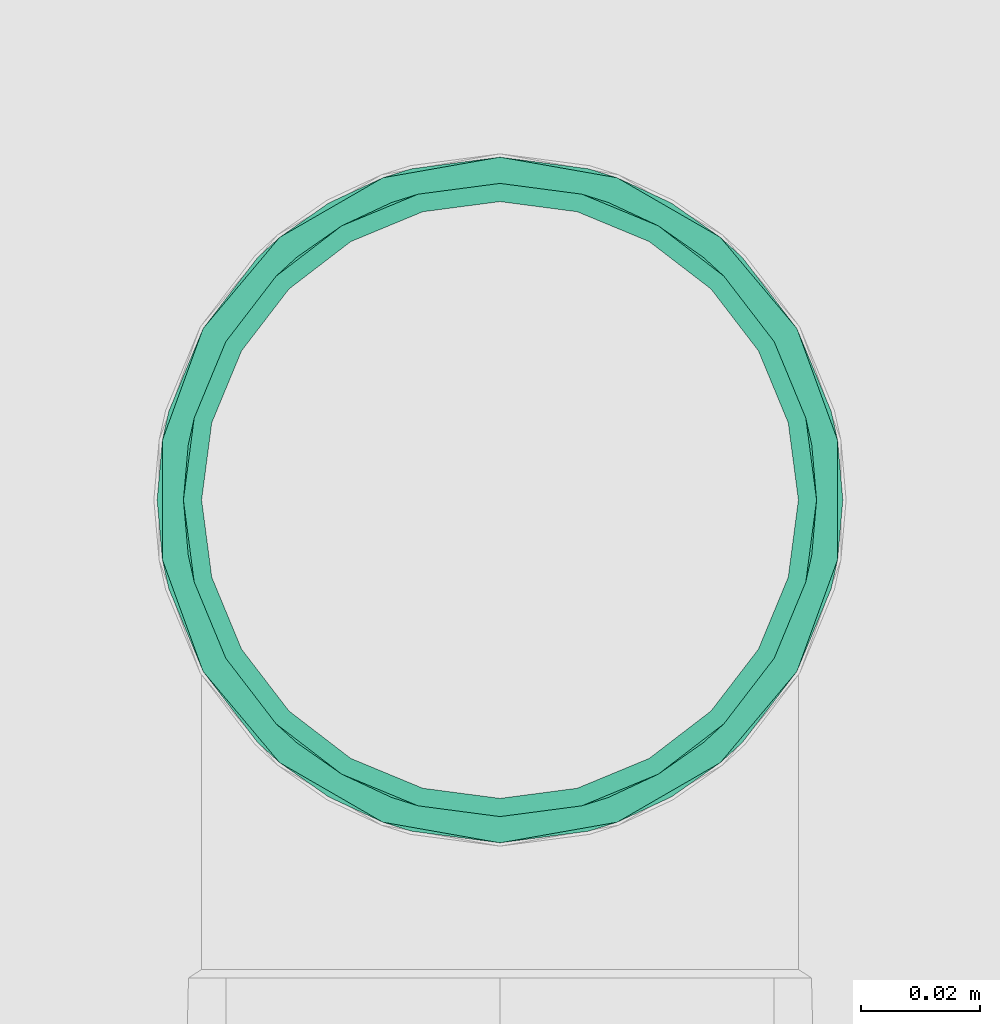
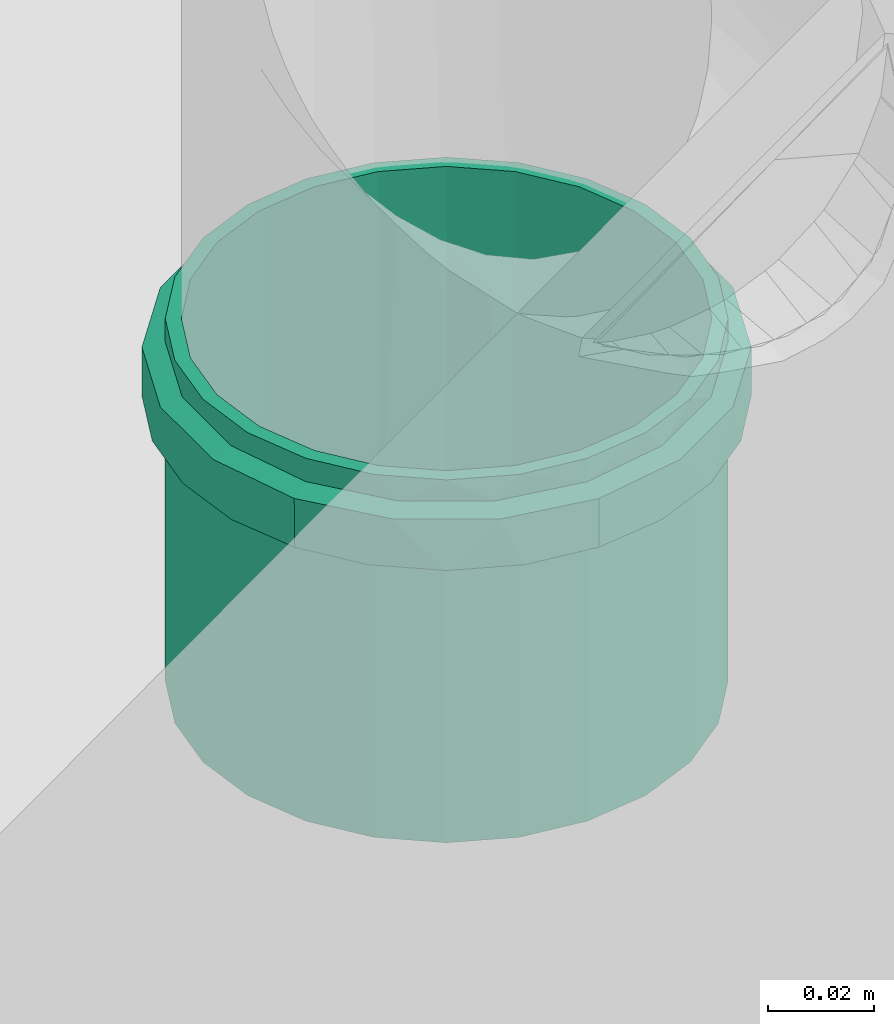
# One storey, part 236 of 589: 1 flow fitting.
"""IFC2X3 building model written with IfcOpenShell, lengths in millimetres."""

from ifc_helpers import new_model, entity, si_unit, converted_unit, derived_unit, direction, frame, origin, place, context, subcontext, project, spatial, faceted_brep, source, transform, mapped, material, type_object, type_shapes, element, save


model = new_model("IFC2X3")

# Units and contexts
model_context = context("Model", 3, precision=0.01, world=origin(), true_north=direction((6.123031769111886e-17, 1.0)))
body_context = subcontext(model_context, "Body", "Model", "MODEL_VIEW")
ifc_project = project(units=[si_unit("LENGTHUNIT", "METRE", prefix="MILLI"), si_unit("AREAUNIT", "SQUARE_METRE"), si_unit("VOLUMEUNIT", "CUBIC_METRE"), converted_unit("PLANEANGLEUNIT", "DEGREE", entity("IfcRatioMeasure", 0.017453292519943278), si_unit("PLANEANGLEUNIT", "RADIAN"), dimensions=[0, 0, 0, 0, 0, 0, 0]), si_unit("MASSUNIT", "GRAM", prefix="KILO"), derived_unit("MASSDENSITYUNIT", [(si_unit("MASSUNIT", "GRAM", prefix="KILO"), 1), (si_unit("LENGTHUNIT", "METRE"), -3)]), derived_unit("IONCONCENTRATIONUNIT", [(si_unit("MASSUNIT", "GRAM", prefix="KILO"), 1), (si_unit("LENGTHUNIT", "METRE"), -3)]), derived_unit("MOMENTOFINERTIAUNIT", [(si_unit("LENGTHUNIT", "METRE"), 4)]), si_unit("TIMEUNIT", "SECOND"), si_unit("FREQUENCYUNIT", "HERTZ"), si_unit("THERMODYNAMICTEMPERATUREUNIT", "DEGREE_CELSIUS"), derived_unit("THERMALTRANSMITTANCEUNIT", [(si_unit("MASSUNIT", "GRAM", prefix="KILO"), 1), (si_unit("THERMODYNAMICTEMPERATUREUNIT", "KELVIN"), -1), (si_unit("TIMEUNIT", "SECOND"), -3)]), derived_unit("THERMALCONDUCTANCEUNIT", [(si_unit("MASSUNIT", "GRAM", prefix="KILO"), 1), (si_unit("THERMODYNAMICTEMPERATUREUNIT", "KELVIN"), -1), (si_unit("TIMEUNIT", "SECOND"), -3), (si_unit("LENGTHUNIT", "METRE"), 1)]), derived_unit("VOLUMETRICFLOWRATEUNIT", [(si_unit("LENGTHUNIT", "METRE"), 3), (si_unit("TIMEUNIT", "SECOND"), -1)]), derived_unit("MASSFLOWRATEUNIT", [(si_unit("MASSUNIT", "GRAM", prefix="KILO"), 1), (si_unit("TIMEUNIT", "SECOND"), -1)]), derived_unit("ROTATIONALFREQUENCYUNIT", [(si_unit("TIMEUNIT", "SECOND"), -1)]), si_unit("ELECTRICCURRENTUNIT", "AMPERE"), si_unit("ELECTRICVOLTAGEUNIT", "VOLT"), si_unit("POWERUNIT", "WATT"), si_unit("FORCEUNIT", "NEWTON", prefix="KILO"), si_unit("ILLUMINANCEUNIT", "LUX"), si_unit("LUMINOUSFLUXUNIT", "LUMEN"), si_unit("LUMINOUSINTENSITYUNIT", "CANDELA"), derived_unit("USERDEFINED", [(si_unit("MASSUNIT", "GRAM", prefix="KILO"), -1), (si_unit("LENGTHUNIT", "METRE"), -2), (si_unit("TIMEUNIT", "SECOND"), 3), (si_unit("LUMINOUSFLUXUNIT", "LUMEN"), 1)]), derived_unit("USERDEFINED", [(si_unit("MASSUNIT", "GRAM", prefix="KILO"), 1), (si_unit("TIMEUNIT", "SECOND"), -3), (si_unit("LENGTHUNIT", "METRE"), 3), (si_unit("ELECTRICCURRENTUNIT", "AMPERE"), -2)]), derived_unit("SOUNDPOWERUNIT", [(si_unit("MASSUNIT", "GRAM", prefix="KILO"), 1), (si_unit("TIMEUNIT", "SECOND"), -3), (si_unit("LENGTHUNIT", "METRE"), 2)]), derived_unit("SOUNDPRESSUREUNIT", [(si_unit("MASSUNIT", "GRAM", prefix="KILO"), 1), (si_unit("LENGTHUNIT", "METRE"), -1), (si_unit("TIMEUNIT", "SECOND"), -2)]), derived_unit("LINEARVELOCITYUNIT", [(si_unit("LENGTHUNIT", "METRE"), 1), (si_unit("TIMEUNIT", "SECOND"), -1)]), si_unit("PRESSUREUNIT", "PASCAL"), derived_unit("USERDEFINED", [(si_unit("MASSUNIT", "GRAM", prefix="KILO"), 1), (si_unit("LENGTHUNIT", "METRE"), -2), (si_unit("TIMEUNIT", "SECOND"), -2)]), derived_unit("LINEARFORCEUNIT", [(si_unit("MASSUNIT", "GRAM", prefix="KILO"), 1), (si_unit("TIMEUNIT", "SECOND"), -2)]), derived_unit("PLANARFORCEUNIT", [(si_unit("MASSUNIT", "GRAM", prefix="KILO"), 1), (si_unit("LENGTHUNIT", "METRE"), -1), (si_unit("TIMEUNIT", "SECOND"), -2)]), derived_unit("SPECIFICHEATCAPACITYUNIT", [(si_unit("THERMODYNAMICTEMPERATUREUNIT", "KELVIN"), -1), (si_unit("LENGTHUNIT", "METRE"), 2), (si_unit("TIMEUNIT", "SECOND"), -2)]), derived_unit("HEATINGVALUEUNIT", [(si_unit("LENGTHUNIT", "METRE"), 2), (si_unit("TIMEUNIT", "SECOND"), -2)]), derived_unit("VAPORPERMEABILITYUNIT", [(si_unit("LENGTHUNIT", "METRE"), -1), (si_unit("TIMEUNIT", "SECOND"), 1)]), derived_unit("DYNAMICVISCOSITYUNIT", [(si_unit("MASSUNIT", "GRAM", prefix="KILO"), 1), (si_unit("TIMEUNIT", "SECOND"), -1), (si_unit("LENGTHUNIT", "METRE"), -1)]), derived_unit("THERMALEXPANSIONCOEFFICIENTUNIT", [(si_unit("THERMODYNAMICTEMPERATUREUNIT", "KELVIN"), -1)]), derived_unit("MODULUSOFELASTICITYUNIT", [(si_unit("MASSUNIT", "GRAM", prefix="KILO"), 1), (si_unit("LENGTHUNIT", "METRE"), -1), (si_unit("TIMEUNIT", "SECOND"), -2)]), derived_unit("ISOTHERMALMOISTURECAPACITYUNIT", [(si_unit("LENGTHUNIT", "METRE"), 3), (si_unit("MASSUNIT", "GRAM", prefix="KILO"), -1)]), derived_unit("MOISTUREDIFFUSIVITYUNIT", [(si_unit("TIMEUNIT", "SECOND"), -1), (si_unit("LENGTHUNIT", "METRE"), 2)])], contexts=[model_context])

# Site, building, storey
site_placement = place(None, origin())
site = spatial("IfcSite", under=ifc_project, at=site_placement, Name="Default", CompositionType="ELEMENT")
building_placement = place(site_placement, origin())
building = spatial("IfcBuilding", under=site, at=building_placement, CompositionType="ELEMENT")
storey_placement = place(building_placement, frame((0.0, 0.0, 100.0)))
storey = spatial("IfcBuildingStorey", under=building, at=storey_placement, Name="TÉRREO", CompositionType="ELEMENT", Elevation=100.0)

# Flow fitting
ifc_material = material(Name="PVC Série Normal")
pipe_fitting_type = type_object("IfcPipeFittingType", Name="PVC Esgoto_Luva Simples para Conexão_Rodrigo MEP:Standard", PredefinedType="NOTDEFINED", material=ifc_material)
shared_shape = source(origin(), body_context, "Body", "Brep", [
    faceted_brep([(17.770000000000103, 28.72500000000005, -49.753159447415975), (17.770000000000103, 40.62328457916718, -40.62328457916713), (17.770000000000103, 26.524999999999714, -45.94264767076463), (17.770000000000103, 13.730350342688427, -51.242365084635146), (17.770000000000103, 14.86915414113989, -55.49243872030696), (17.770000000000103, 37.5120147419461, -37.51201474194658), (17.770000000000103, 49.75315944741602, -28.724999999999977), (17.770000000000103, 45.94264767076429, -26.52500000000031), (17.770000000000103, 51.24236508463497, -13.730350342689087), (17.770000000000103, 55.49243872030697, -14.869154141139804), (17.770000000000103, 53.05, 0.0), (17.770000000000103, 57.45, 0.0), (17.770000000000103, 51.242365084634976, 13.730350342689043), (17.770000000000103, 55.49243872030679, 14.869154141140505), (17.770000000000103, 45.942647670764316, 26.52500000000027), (17.770000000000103, 49.753159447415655, 28.725000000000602), (17.770000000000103, 37.51201474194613, 37.51201474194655), (17.770000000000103, 40.62328457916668, 40.62328457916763), (17.770000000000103, 26.524999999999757, 45.9426476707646), (17.770000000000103, 28.72499999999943, 49.75315944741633), (17.770000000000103, 13.730350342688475, 51.24236508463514), (17.770000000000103, 14.8691541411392, 55.49243872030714), (17.770000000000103, 0.0, 53.05), (17.770000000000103, 0.0, 57.45), (17.770000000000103, -13.730350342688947, 51.24236508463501), (17.770000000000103, -14.869154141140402, 55.49243872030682), (17.770000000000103, -26.52500000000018, 45.94264767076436), (17.770000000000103, -28.725000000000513, 49.753159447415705), (17.770000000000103, -37.51201474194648, 37.5120147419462), (17.770000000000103, -40.62328457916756, 40.62328457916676), (17.770000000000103, -45.94264767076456, 26.524999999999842), (17.770000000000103, -49.7531594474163, 28.724999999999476), (17.770000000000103, -55.49243872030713, 14.869154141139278), (17.770000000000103, -51.24236508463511, 13.730350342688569), (17.770000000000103, -57.45, 0.0), (17.770000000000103, -53.05, 0.0), (17.770000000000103, -55.49243872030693, -14.86915414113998), (17.770000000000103, -51.24236508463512, -13.73035034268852), (17.770000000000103, -49.75315944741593, -28.72500000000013), (17.770000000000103, -45.942647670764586, -26.5249999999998), (17.770000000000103, -40.62328457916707, -40.62328457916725), (17.770000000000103, -37.512014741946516, -37.51201474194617), (17.770000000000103, -28.724999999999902, -49.75315944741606), (17.770000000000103, -26.525000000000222, -45.94264767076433), (17.770000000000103, -14.869154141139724, -55.492438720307), (17.770000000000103, -13.730350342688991, -51.242365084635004), (17.770000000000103, 0.0, -57.45), (17.770000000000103, 0.0, -53.05), (6.570000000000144, -19.34638876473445, 53.16657713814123), (6.57000000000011, -44.00761900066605, 36.93009572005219), (6.5700000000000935, -48.99626263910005, 28.290173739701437), (6.5700000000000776, -53.98490627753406, 19.65025175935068), (6.570000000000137, -28.721697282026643, 49.75506612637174), (6.570000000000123, -36.36465814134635, 43.34258092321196), (6.57000000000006, -55.71745313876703, 9.825125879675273), (6.570000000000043, -57.45, 0.0), (6.570000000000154, -9.971080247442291, 56.57808814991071), (6.570000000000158, 9.98234714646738, 56.576101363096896), (6.570000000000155, 0.005633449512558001, 56.577094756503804), (6.570000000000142, 36.37328876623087, 43.33533831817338), (6.570000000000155, 19.356976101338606, 53.16272339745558), (6.570000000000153, 28.73160505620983, 49.749345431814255), (6.5700000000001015, 53.988818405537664, 19.639500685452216), (6.570000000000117, 49.00189544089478, 28.280415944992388), (6.570000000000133, 44.01497247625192, 36.921331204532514), (6.570000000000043, 57.45, 0.0), (6.569999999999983, 44.01497247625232, -36.92133120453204), (6.569999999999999, 49.0018954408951, -28.280415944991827), (6.570000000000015, 53.98881840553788, -19.63950068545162), (6.569999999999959, 28.731605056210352, -49.74934543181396), (6.569999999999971, 36.37328876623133, -43.335338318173), (6.569999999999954, 19.35697610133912, -53.16272339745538), (6.569999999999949, 9.982347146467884, -56.57610136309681), (6.569999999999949, -9.97108024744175, -56.578088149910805), (6.569999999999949, 0.005633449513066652, -56.577094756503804), (6.569999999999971, -36.364658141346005, -43.34258092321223), (6.56999999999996, -28.72169728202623, -49.755066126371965), (6.569999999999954, -19.346388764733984, -53.16657713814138), (6.57000000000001, -53.984906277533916, -19.650251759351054), (6.569999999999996, -48.99626263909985, -28.290173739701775), (6.569999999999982, -44.007619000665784, -36.93009572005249), (6.570000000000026, -55.717453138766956, -9.825125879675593), (83.52000000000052, 26.525000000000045, -45.942647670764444), (83.52000000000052, 37.512014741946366, -37.51201474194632), (83.52000000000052, 25.0, -43.301270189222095), (83.52000000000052, 12.940952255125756, -48.2962913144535), (83.52000000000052, 13.73035034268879, -51.242365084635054), (83.52000000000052, 35.35533905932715, -35.355339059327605), (83.52000000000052, 45.94264767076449, -26.524999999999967), (83.52000000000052, 43.30127018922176, -25.0), (83.52000000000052, 48.29629131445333, -12.940952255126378), (83.52000000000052, 51.24236508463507, -13.730350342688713), (83.52000000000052, 50.0, 0.0), (83.52000000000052, 53.05, 0.0), (83.52000000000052, 48.296291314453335, 12.940952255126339), (83.52000000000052, 51.2423650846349, 13.73035034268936), (83.52000000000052, 43.30127018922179, 25.0), (83.52000000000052, 45.942647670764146, 26.525000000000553), (83.52000000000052, 35.35533905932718, 35.35533905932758), (83.52000000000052, 37.512014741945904, 37.512014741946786), (83.52000000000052, 25.0, 43.301270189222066), (83.52000000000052, 26.52499999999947, 45.94264767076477), (83.52000000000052, 12.9409522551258, 48.29629131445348), (83.52000000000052, 13.730350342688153, 51.242365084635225), (83.52000000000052, 0.0, 50.0), (83.52000000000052, 0.0, 53.05), (83.52000000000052, -12.94095225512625, 48.296291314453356), (83.52000000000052, -13.730350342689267, 51.24236508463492), (83.52000000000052, -25.0, 43.30127018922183), (83.52000000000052, -26.525000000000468, 45.942647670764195), (83.52000000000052, -35.355339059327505, 35.35533905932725), (83.52000000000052, -37.512014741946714, 37.51201474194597), (83.52000000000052, -43.30127018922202, 25.0), (83.52000000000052, -45.942647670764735, 26.524999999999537), (83.52000000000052, -51.24236508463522, 13.730350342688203), (83.52000000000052, -48.29629131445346, 12.94095225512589), (83.52000000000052, -53.05, 0.0), (83.52000000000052, -50.0, 0.0), (83.52000000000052, -51.242365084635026, -13.730350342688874), (83.52000000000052, -48.29629131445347, -12.940952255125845), (83.52000000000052, -45.9426476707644, -26.525000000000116), (83.52000000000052, -43.301270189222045, -25.0), (83.52000000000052, -37.51201474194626, -37.51201474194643), (83.52000000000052, -35.35533905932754, -35.355339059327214), (83.52000000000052, -26.524999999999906, -45.94264767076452), (83.52000000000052, -25.0, -43.30127018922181), (83.52000000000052, -13.730350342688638, -51.2423650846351), (83.52000000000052, -12.94095225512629, -48.29629131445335), (83.52000000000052, 0.0, -53.05), (83.52000000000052, 0.0, -50.0), (0.0, 25.0, -43.301270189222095), (0.0, 37.512014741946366, -37.51201474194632), (0.0, 26.525000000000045, -45.942647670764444), (0.0, 12.940952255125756, -48.2962913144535), (0.0, 35.35533905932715, -35.355339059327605), (0.0, 45.94264767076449, -26.524999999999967), (0.0, 43.30127018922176, -25.0), (0.0, 48.29629131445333, -12.940952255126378), (0.0, 51.24236508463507, -13.730350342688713), (0.0, 50.0, 0.0), (0.0, 53.05, 0.0), (0.0, 48.296291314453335, 12.940952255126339), (0.0, 51.2423650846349, 13.73035034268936), (0.0, 43.30127018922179, 25.0), (0.0, 45.942647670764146, 26.525000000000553), (0.0, 35.35533905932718, 35.35533905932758), (0.0, 37.512014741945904, 37.512014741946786), (0.0, 25.0, 43.301270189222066), (0.0, 26.52499999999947, 45.94264767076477), (0.0, 12.9409522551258, 48.29629131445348), (0.0, 13.730350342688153, 51.242365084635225), (0.0, 0.0, 50.0), (0.0, 0.0, 53.05), (0.0, -12.94095225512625, 48.296291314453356), (0.0, -13.730350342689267, 51.24236508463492), (0.0, -25.0, 43.30127018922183), (0.0, -26.525000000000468, 45.942647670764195), (0.0, -35.355339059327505, 35.35533905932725), (0.0, -37.512014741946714, 37.51201474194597), (0.0, -43.30127018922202, 25.0), (0.0, -45.942647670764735, 26.524999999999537), (0.0, -51.24236508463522, 13.730350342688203), (0.0, -48.29629131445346, 12.94095225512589), (0.0, -53.05, 0.0), (0.0, -50.0, 0.0), (0.0, -51.242365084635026, -13.730350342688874), (0.0, -48.29629131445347, -12.940952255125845), (0.0, -45.9426476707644, -26.525000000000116), (0.0, -43.301270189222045, -25.0), (0.0, -37.51201474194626, -37.51201474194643), (0.0, -35.35533905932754, -35.355339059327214), (0.0, -26.524999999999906, -45.94264767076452), (0.0, -25.0, -43.30127018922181), (0.0, -13.730350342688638, -51.2423650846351), (0.0, -12.94095225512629, -48.29629131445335), (0.0, 0.0, -53.05), (0.0, 0.0, -50.0), (0.0, 13.73035034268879, -51.242365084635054), (5.370000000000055, -53.05, 0.0), (5.370000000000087, -49.85079898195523, 18.143878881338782), (5.370000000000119, -40.63905406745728, 34.09941032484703), (5.370000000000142, -26.525801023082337, 45.942185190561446), (5.3700000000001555, -9.213250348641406, 52.24383712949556), (5.370000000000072, 51.44992493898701, 9.073243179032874), (5.370000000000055, 53.05, 0.0), (5.370000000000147, 26.523397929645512, 45.943572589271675), (5.370000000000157, 9.210517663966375, 52.244318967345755), (5.3700000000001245, 40.63727040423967, 34.10153594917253), (5.370000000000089, 49.84984987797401, 18.146486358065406), (5.370000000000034, 51.4499249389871, -9.073243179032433), (5.370000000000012, 49.84984987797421, -18.146486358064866), (5.369999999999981, 40.63727040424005, -34.101535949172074), (5.36999999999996, 26.523397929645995, -45.9435725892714), (5.369999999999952, 9.21051766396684, -52.24431896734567), (5.369999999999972, -26.52580102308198, -45.94218519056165), (5.369999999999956, -9.213250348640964, -52.24383712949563), (5.369999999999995, -40.63905406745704, -34.099410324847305), (5.370000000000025, -49.8507989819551, -18.143878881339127), (50.0, -50.0, 0.0), (50.0, 50.0, 0.0)], [[[0, 1, 2]], [[0, 2, 3]], [[3, 4, 0]], [[2, 1, 5]], [[6, 5, 1]], [[5, 6, 7]], [[7, 6, 8]], [[9, 8, 6]], [[9, 10, 8]], [[10, 9, 11]], [[12, 10, 11]], [[11, 13, 12]], [[12, 13, 14]], [[15, 14, 13]], [[14, 15, 16]], [[16, 15, 17]], [[18, 16, 17]], [[17, 19, 18]], [[18, 19, 20]], [[21, 20, 19]], [[20, 21, 22]], [[22, 21, 23]], [[22, 23, 24]], [[24, 23, 25]], [[24, 25, 26]], [[27, 26, 25]], [[27, 28, 26]], [[28, 27, 29]], [[29, 30, 28]], [[31, 30, 29]], [[30, 31, 32]], [[32, 33, 30]], [[34, 33, 32]], [[34, 35, 33]], [[36, 35, 34]], [[36, 37, 35]], [[37, 36, 38]], [[38, 39, 37]], [[39, 38, 40]], [[39, 40, 41]], [[40, 42, 41]], [[41, 42, 43]], [[43, 42, 44]], [[44, 45, 43]], [[46, 45, 44]], [[4, 47, 46]], [[46, 47, 45]], [[4, 3, 47]], [[48, 27, 25]], [[31, 29, 49]], [[31, 49, 50, 51]], [[52, 53, 27]], [[32, 51, 54]], [[54, 55, 34]], [[54, 34, 32]], [[25, 56, 48]], [[49, 29, 53]], [[23, 57, 58, 56]], [[59, 19, 17]], [[27, 53, 29]], [[48, 52, 27]], [[31, 51, 32]], [[57, 23, 21]], [[60, 19, 61]], [[15, 62, 63, 64]], [[19, 60, 21]], [[15, 13, 62]], [[17, 64, 59]], [[57, 21, 60]], [[23, 56, 25]], [[15, 64, 17]], [[13, 65, 62]], [[13, 11, 65]], [[59, 61, 19]], [[65, 11, 9]], [[6, 1, 66]], [[6, 66, 67, 68]], [[69, 70, 0]], [[68, 65, 9]], [[71, 69, 0]], [[71, 0, 4]], [[4, 72, 71]], [[66, 1, 70]], [[46, 73, 74, 72]], [[75, 76, 42]], [[0, 70, 1]], [[75, 42, 40]], [[6, 68, 9]], [[73, 46, 44]], [[77, 42, 76]], [[38, 78, 79, 80]], [[42, 77, 44]], [[38, 36, 78]], [[40, 80, 75]], [[73, 44, 77]], [[46, 72, 4]], [[38, 80, 40]], [[81, 78, 36]], [[55, 81, 34]], [[34, 81, 36]], [[82, 83, 84]], [[82, 84, 85]], [[85, 86, 82]], [[84, 83, 87]], [[88, 87, 83]], [[87, 88, 89]], [[89, 88, 90]], [[91, 90, 88]], [[91, 92, 90]], [[92, 91, 93]], [[94, 92, 93]], [[93, 95, 94]], [[94, 95, 96]], [[97, 96, 95]], [[96, 97, 98]], [[98, 97, 99]], [[100, 98, 99]], [[99, 101, 100]], [[100, 101, 102]], [[103, 102, 101]], [[102, 103, 104]], [[104, 103, 105]], [[104, 105, 106]], [[106, 105, 107]], [[106, 107, 108]], [[109, 108, 107]], [[110, 108, 109]], [[110, 109, 111]], [[111, 112, 110]], [[113, 112, 111]], [[112, 113, 114]], [[114, 115, 112]], [[116, 115, 114]], [[116, 117, 115]], [[118, 117, 116]], [[118, 119, 117]], [[119, 118, 120]], [[120, 121, 119]], [[121, 120, 122]], [[121, 122, 123]], [[122, 124, 123]], [[125, 123, 124]], [[125, 124, 126]], [[126, 127, 125]], [[128, 127, 126]], [[86, 129, 128]], [[128, 129, 127]], [[86, 85, 129]], [[130, 131, 132]], [[133, 130, 132]], [[134, 131, 130]], [[131, 134, 135]], [[136, 135, 134]], [[137, 135, 136]], [[135, 137, 138]], [[137, 139, 138]], [[140, 138, 139]], [[140, 139, 141]], [[141, 142, 140]], [[143, 142, 141]], [[142, 143, 144]], [[145, 144, 143]], [[146, 144, 145]], [[146, 145, 147]], [[147, 148, 146]], [[149, 148, 147]], [[148, 149, 150]], [[151, 150, 149]], [[152, 150, 151]], [[153, 152, 151]], [[154, 152, 153]], [[155, 154, 153]], [[154, 155, 156]], [[156, 155, 157]], [[158, 156, 157]], [[157, 159, 158]], [[158, 159, 160]], [[161, 160, 159]], [[159, 162, 161]], [[161, 162, 163]], [[162, 164, 163]], [[163, 164, 165]], [[164, 166, 165]], [[167, 165, 166]], [[166, 168, 167]], [[169, 167, 168]], [[170, 169, 168]], [[170, 171, 169]], [[171, 170, 172]], [[173, 171, 172]], [[172, 174, 173]], [[173, 174, 175]], [[174, 176, 175]], [[176, 133, 177]], [[175, 176, 177]], [[132, 177, 133]], [[161, 178, 179]], [[158, 180, 181]], [[179, 180, 160]], [[181, 182, 154]], [[179, 160, 161]], [[161, 163, 178]], [[35, 116, 114, 33]], [[183, 184, 140]], [[181, 156, 158]], [[158, 160, 180]], [[181, 154, 156]], [[182, 152, 154]], [[183, 140, 142]], [[185, 150, 186]], [[187, 146, 185]], [[142, 188, 183]], [[187, 188, 144]], [[185, 148, 150]], [[150, 152, 186]], [[187, 144, 146]], [[146, 148, 185]], [[188, 142, 144]], [[186, 152, 182]], [[189, 190, 138]], [[131, 191, 192]], [[190, 191, 135]], [[192, 193, 177]], [[190, 135, 138]], [[184, 189, 140]], [[192, 132, 131]], [[131, 135, 191]], [[192, 177, 132]], [[193, 175, 177]], [[140, 189, 138]], [[194, 173, 195]], [[196, 169, 194]], [[165, 197, 178]], [[196, 197, 167]], [[165, 178, 163]], [[35, 37, 118, 116]], [[194, 171, 173]], [[173, 175, 195]], [[196, 167, 169]], [[169, 171, 194]], [[197, 165, 167]], [[195, 175, 193]], [[115, 117, 198, 164, 162]], [[155, 108, 110, 157]], [[110, 112, 159, 157]], [[112, 115, 162, 159]], [[106, 108, 155, 153]], [[153, 151, 104, 106]], [[102, 104, 151, 149]], [[102, 149, 147, 100]], [[141, 94, 96, 143]], [[96, 98, 145, 143]], [[98, 100, 147, 145]], [[92, 94, 141, 139, 199]], [[199, 139, 137, 90, 92]], [[87, 89, 136, 134]], [[134, 130, 84, 87]], [[89, 90, 137, 136]], [[85, 84, 130, 133]], [[133, 176, 129, 85]], [[127, 129, 176, 174]], [[127, 174, 172, 125]], [[166, 119, 121, 168]], [[121, 123, 170, 168]], [[123, 125, 172, 170]], [[117, 119, 166, 164, 198]], [[81, 178, 197]], [[190, 68, 67]], [[194, 75, 196]], [[193, 72, 74]], [[195, 77, 194]], [[79, 197, 196]], [[81, 55, 178]], [[192, 69, 71]], [[79, 78, 197]], [[194, 77, 76]], [[191, 66, 70]], [[80, 196, 75]], [[68, 190, 189]], [[74, 195, 193]], [[192, 71, 193]], [[190, 67, 191]], [[70, 192, 191]], [[65, 189, 184]], [[195, 73, 77]], [[193, 71, 72]], [[197, 78, 81]], [[191, 67, 66]], [[189, 65, 68]], [[196, 80, 79]], [[70, 69, 192]], [[194, 76, 75]], [[73, 195, 74]], [[65, 183, 62]], [[48, 56, 182]], [[58, 182, 56]], [[54, 51, 179]], [[59, 185, 61]], [[60, 186, 57]], [[53, 52, 181]], [[63, 187, 64]], [[58, 57, 186]], [[187, 63, 188]], [[186, 60, 185]], [[50, 49, 180]], [[185, 59, 187]], [[59, 64, 187]], [[182, 58, 186]], [[50, 179, 51]], [[54, 178, 55]], [[53, 180, 49]], [[63, 62, 188]], [[181, 48, 182]], [[183, 65, 184]], [[179, 50, 180]], [[178, 54, 179]], [[183, 188, 62]], [[180, 53, 181]], [[60, 61, 185]], [[48, 181, 52]], [[30, 33, 114, 113]], [[26, 28, 111, 109]], [[113, 111, 28, 30]], [[107, 24, 26, 109]], [[107, 105, 22, 24]], [[18, 20, 103, 101]], [[99, 16, 18, 101]], [[12, 14, 97, 95]], [[99, 97, 14, 16]], [[10, 12, 95, 93]], [[103, 20, 22, 105]], [[91, 8, 10, 93]], [[88, 7, 8, 91]], [[82, 86, 3, 2]], [[83, 5, 7, 88]], [[2, 5, 83, 82]], [[86, 128, 47, 3]], [[43, 45, 126, 124]], [[122, 41, 43, 124]], [[37, 39, 120, 118]], [[122, 120, 39, 41]], [[126, 45, 47, 128]]]),
])
type_shapes(pipe_fitting_type, [shared_shape])
flow_fitting_placement = place(storey_placement, frame((-8787.785353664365, 6164.690718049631, -395.8400000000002), z_axis=(1.0, 0.0, 0.0), x_axis=(0.0, 0.0, -1.0)))
element("IfcFlowFitting", 1, at=flow_fitting_placement, inside=storey, type_object=pipe_fitting_type, material=ifc_material, Name="PVC Esgoto_Luva Simples para Conexão_Rodrigo MEP:Standard", ObjectType="PVC Esgoto_Luva Simples para Conexão_Rodrigo MEP:Standard", context=body_context, shape_type="MappedRepresentation", body=[
    mapped(shared_shape, transform((0.0, 0.0, 0.0), scale=1.0)),
])

save(model, "model.ifc")
